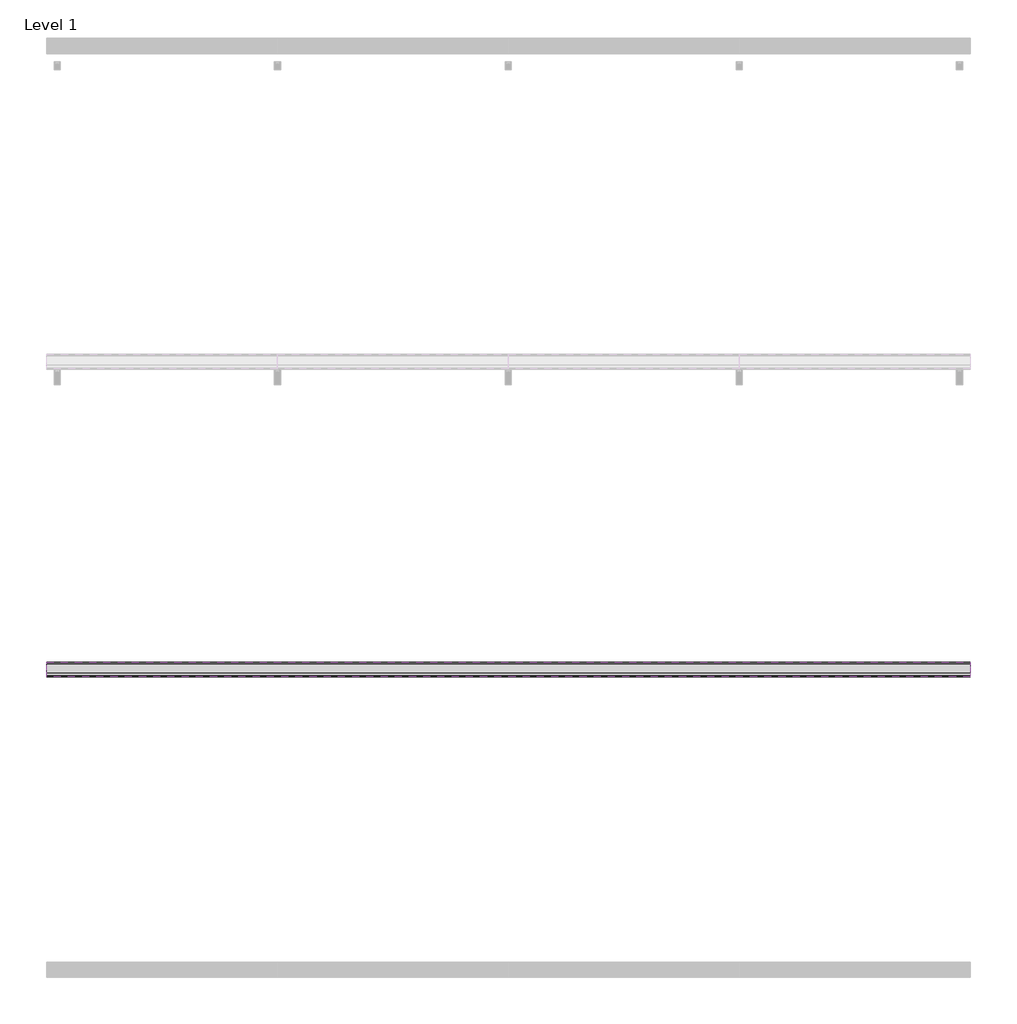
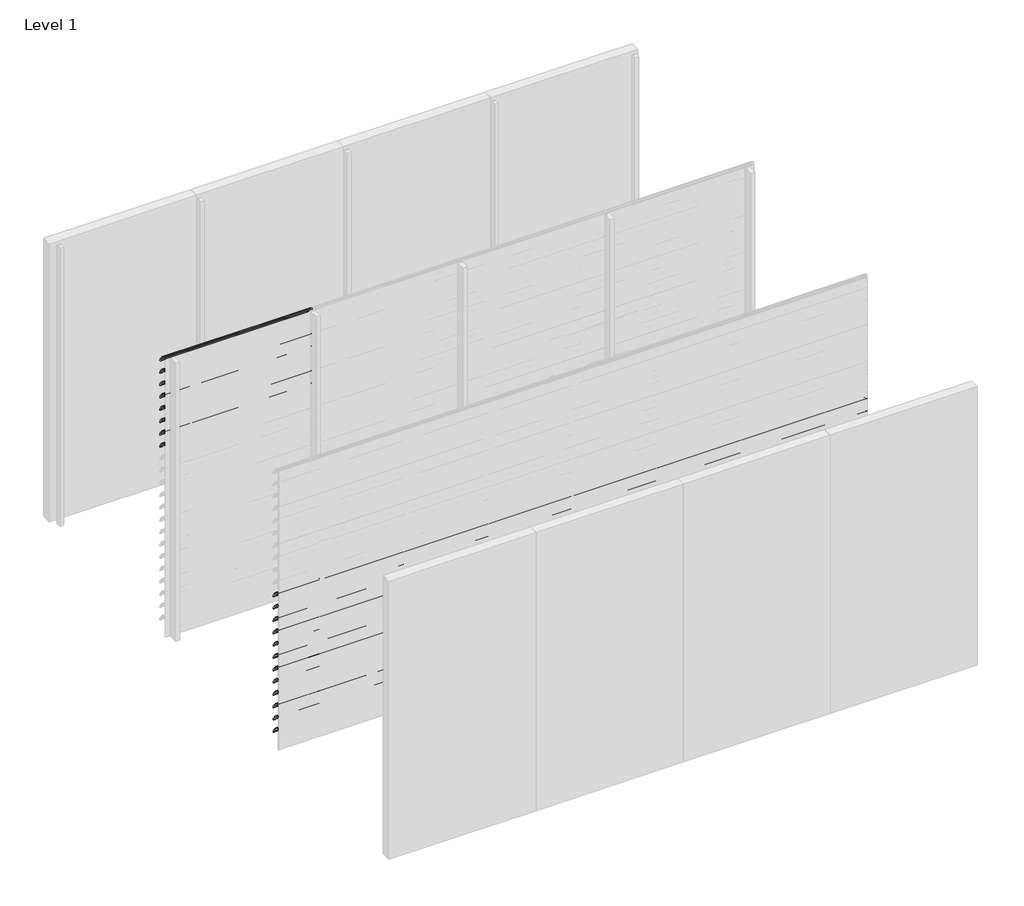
# One storey, part 20 of 57: 20 proxies.
"""IFC4 building model written with IfcOpenShell, lengths in millimetres."""

from ifc_helpers import new_model, si_unit, point, frame, frame_2d, origin, place, context, project, spatial, polyline, circle_curve, trimmed, segment, composite_curve, outline, extrude, element, save

model = new_model("IFC4")

# Units and contexts
model_context = context("Model", 3, world=origin())
ifc_project = project(units=[si_unit("LENGTHUNIT", "METRE", prefix="MILLI")], contexts=[model_context])

# Site, building, storey
site = spatial("IfcSite", under=ifc_project)
building = spatial("IfcBuilding", under=site)
storey = spatial("IfcBuildingStorey", under=building, Name="Level 1", Elevation=0.0)

# Proxies
placement = place(None, origin())
element("IfcBuildingElementProxy", 1, Name="Wall Sweeps", at=placement, inside=storey, context=model_context, shape_type="SweptSolid", body=[
    extrude(outline(composite_curve([segment(trimmed(circle_curve(frame_2d((-35993.7822526, 3016.4913792)), 4.2177474), [point((-35989.6985606, 3017.5462976))], [point((-35993.7822526, 3020.7091266))], False, "CARTESIAN"), True, "CONTINUOUS"), segment(trimmed(circle_curve(frame_2d((-36018.7150834, 2918.2536312)), 105.4456002), [point((-35993.7822526, 3020.7091266))], [point((-35971.7914298, 3012.6832099))], False, "CARTESIAN"), True, "CONTINUOUS"), segment(trimmed(circle_curve(frame_2d((-36061.7199745, 2864.0352476)), 173.7335887), [point((-35971.7914298, 3012.6832099))], [point((-35913.0720121, 2953.9637922))], False, "CARTESIAN"), True, "CONTINUOUS"), segment(trimmed(circle_curve(frame_2d((-36004.9297178, 2902.1860314)), 105.4456002), [point((-35913.0720121, 2953.9637922))], [point((-35903.6249616, 2931.4455765))], False, "CARTESIAN"), True, "CONTINUOUS"), segment(trimmed(circle_curve(frame_2d((-35907.809737, 2930.3307305)), 4.3307305), [point((-35903.6249616, 2931.4455765))], [point((-35909.0769196, 2926.189538))], False, "CARTESIAN"), True, "CONTINUOUS"), segment(polyline([(-35909.0769196, 2926.189538), (-35934.7401984, 2950.9722783)]), True, "CONTINUOUS"), segment(trimmed(circle_curve(frame_2d((-35931.3879574, 2953.2977626)), 4.079877), [point((-35934.7401984, 2950.9722783))], [point((-35930.7310597, 2957.3244091))], False, "CARTESIAN"), True, "CONTINUOUS"), segment(trimmed(circle_curve(frame_2d((-36014.6665585, 2935.2544323)), 86.7885467), [point((-35930.7310597, 2957.3244091))], [point((-35942.3028351, 2983.1683485))], True, "CARTESIAN"), True, "CONTINUOUS"), segment(polyline([(-35942.3028351, 2983.1683485), (-35940.7230099, 2985.9046861)]), True, "CONTINUOUS"), segment(trimmed(circle_curve(frame_2d((-36061.7199745, 2864.0352476)), 171.7335887), [point((-35940.7230099, 2985.9046861))], [point((-35972.7555872, 3010.9289618))], True, "CARTESIAN"), True, "CONTINUOUS"), segment(trimmed(circle_curve(frame_2d((-36018.7150834, 2918.2536312)), 103.4456002), [point((-35972.7555872, 3010.9289618))], [point((-35989.6985606, 3017.5462976))], True, "CARTESIAN"), True, "CONTINUOUS")], self_intersect=False)), frame((0.0, 0.0, 0.0), z_axis=(1.0, 0.0, 0.0), x_axis=(0.0, 1.0, 0.0)), (0.0, 0.0, 1.0), 1500.0),
])
element("IfcBuildingElementProxy", 2, Name="Wall Sweeps", at=placement, inside=storey, context=model_context, shape_type="SweptSolid", body=[
    extrude(outline(composite_curve([segment(trimmed(circle_curve(frame_2d((-35993.7822526, 2883.4913792)), 4.2177474), [point((-35989.6985606, 2884.5462976))], [point((-35993.7822526, 2887.7091266))], False, "CARTESIAN"), True, "CONTINUOUS"), segment(trimmed(circle_curve(frame_2d((-36018.7150834, 2785.2536312)), 105.4456002), [point((-35993.7822526, 2887.7091266))], [point((-35971.7914298, 2879.6832099))], False, "CARTESIAN"), True, "CONTINUOUS"), segment(trimmed(circle_curve(frame_2d((-36061.7199745, 2731.0352476)), 173.7335887), [point((-35971.7914298, 2879.6832099))], [point((-35913.0720121, 2820.9637922))], False, "CARTESIAN"), True, "CONTINUOUS"), segment(trimmed(circle_curve(frame_2d((-36004.9297178, 2769.1860314)), 105.4456002), [point((-35913.0720121, 2820.9637922))], [point((-35903.6249616, 2798.4455765))], False, "CARTESIAN"), True, "CONTINUOUS"), segment(trimmed(circle_curve(frame_2d((-35907.809737, 2797.3307305)), 4.3307305), [point((-35903.6249616, 2798.4455765))], [point((-35909.0769196, 2793.189538))], False, "CARTESIAN"), True, "CONTINUOUS"), segment(polyline([(-35909.0769196, 2793.189538), (-35934.7401984, 2817.9722783)]), True, "CONTINUOUS"), segment(trimmed(circle_curve(frame_2d((-35931.3879574, 2820.2977626)), 4.079877), [point((-35934.7401984, 2817.9722783))], [point((-35930.7310597, 2824.3244091))], False, "CARTESIAN"), True, "CONTINUOUS"), segment(trimmed(circle_curve(frame_2d((-36014.6665585, 2802.2544323)), 86.7885467), [point((-35930.7310597, 2824.3244091))], [point((-35942.3028351, 2850.1683485))], True, "CARTESIAN"), True, "CONTINUOUS"), segment(polyline([(-35942.3028351, 2850.1683485), (-35940.7230099, 2852.9046861)]), True, "CONTINUOUS"), segment(trimmed(circle_curve(frame_2d((-36061.7199745, 2731.0352476)), 171.7335887), [point((-35940.7230099, 2852.9046861))], [point((-35972.7555872, 2877.9289618))], True, "CARTESIAN"), True, "CONTINUOUS"), segment(trimmed(circle_curve(frame_2d((-36018.7150834, 2785.2536312)), 103.4456002), [point((-35972.7555872, 2877.9289618))], [point((-35989.6985606, 2884.5462976))], True, "CARTESIAN"), True, "CONTINUOUS")], self_intersect=False)), frame((0.0, 0.0, 0.0), z_axis=(1.0, 0.0, 0.0), x_axis=(0.0, 1.0, 0.0)), (0.0, 0.0, 1.0), 1500.0),
])
element("IfcBuildingElementProxy", 3, Name="Wall Sweeps", at=placement, inside=storey, context=model_context, shape_type="SweptSolid", body=[
    extrude(outline(composite_curve([segment(trimmed(circle_curve(frame_2d((-35993.7822526, 2750.4913792)), 4.2177474), [point((-35989.6985606, 2751.5462976))], [point((-35993.7822526, 2754.7091266))], False, "CARTESIAN"), True, "CONTINUOUS"), segment(trimmed(circle_curve(frame_2d((-36018.7150834, 2652.2536312)), 105.4456002), [point((-35993.7822526, 2754.7091266))], [point((-35971.7914298, 2746.6832099))], False, "CARTESIAN"), True, "CONTINUOUS"), segment(trimmed(circle_curve(frame_2d((-36061.7199745, 2598.0352476)), 173.7335887), [point((-35971.7914298, 2746.6832099))], [point((-35913.0720121, 2687.9637922))], False, "CARTESIAN"), True, "CONTINUOUS"), segment(trimmed(circle_curve(frame_2d((-36004.9297178, 2636.1860314)), 105.4456002), [point((-35913.0720121, 2687.9637922))], [point((-35903.6249616, 2665.4455765))], False, "CARTESIAN"), True, "CONTINUOUS"), segment(trimmed(circle_curve(frame_2d((-35907.809737, 2664.3307305)), 4.3307305), [point((-35903.6249616, 2665.4455765))], [point((-35909.0769196, 2660.189538))], False, "CARTESIAN"), True, "CONTINUOUS"), segment(polyline([(-35909.0769196, 2660.189538), (-35934.7401984, 2684.9722783)]), True, "CONTINUOUS"), segment(trimmed(circle_curve(frame_2d((-35931.3879574, 2687.2977626)), 4.079877), [point((-35934.7401984, 2684.9722783))], [point((-35930.7310597, 2691.3244091))], False, "CARTESIAN"), True, "CONTINUOUS"), segment(trimmed(circle_curve(frame_2d((-36014.6665585, 2669.2544323)), 86.7885467), [point((-35930.7310597, 2691.3244091))], [point((-35942.3028351, 2717.1683485))], True, "CARTESIAN"), True, "CONTINUOUS"), segment(polyline([(-35942.3028351, 2717.1683485), (-35940.7230099, 2719.9046861)]), True, "CONTINUOUS"), segment(trimmed(circle_curve(frame_2d((-36061.7199745, 2598.0352476)), 171.7335887), [point((-35940.7230099, 2719.9046861))], [point((-35972.7555872, 2744.9289618))], True, "CARTESIAN"), True, "CONTINUOUS"), segment(trimmed(circle_curve(frame_2d((-36018.7150834, 2652.2536312)), 103.4456002), [point((-35972.7555872, 2744.9289618))], [point((-35989.6985606, 2751.5462976))], True, "CARTESIAN"), True, "CONTINUOUS")], self_intersect=False)), frame((0.0, 0.0, 0.0), z_axis=(1.0, 0.0, 0.0), x_axis=(0.0, 1.0, 0.0)), (0.0, 0.0, 1.0), 1500.0),
])
element("IfcBuildingElementProxy", 4, Name="Wall Sweeps", at=placement, inside=storey, context=model_context, shape_type="SweptSolid", body=[
    extrude(outline(composite_curve([segment(trimmed(circle_curve(frame_2d((-35993.7822526, 2617.4913792)), 4.2177474), [point((-35989.6985606, 2618.5462976))], [point((-35993.7822526, 2621.7091266))], False, "CARTESIAN"), True, "CONTINUOUS"), segment(trimmed(circle_curve(frame_2d((-36018.7150834, 2519.2536312)), 105.4456002), [point((-35993.7822526, 2621.7091266))], [point((-35971.7914298, 2613.6832099))], False, "CARTESIAN"), True, "CONTINUOUS"), segment(trimmed(circle_curve(frame_2d((-36061.7199745, 2465.0352476)), 173.7335887), [point((-35971.7914298, 2613.6832099))], [point((-35913.0720121, 2554.9637922))], False, "CARTESIAN"), True, "CONTINUOUS"), segment(trimmed(circle_curve(frame_2d((-36004.9297178, 2503.1860314)), 105.4456002), [point((-35913.0720121, 2554.9637922))], [point((-35903.6249616, 2532.4455765))], False, "CARTESIAN"), True, "CONTINUOUS"), segment(trimmed(circle_curve(frame_2d((-35907.809737, 2531.3307305)), 4.3307305), [point((-35903.6249616, 2532.4455765))], [point((-35909.0769196, 2527.189538))], False, "CARTESIAN"), True, "CONTINUOUS"), segment(polyline([(-35909.0769196, 2527.189538), (-35934.7401984, 2551.9722783)]), True, "CONTINUOUS"), segment(trimmed(circle_curve(frame_2d((-35931.3879574, 2554.2977626)), 4.079877), [point((-35934.7401984, 2551.9722783))], [point((-35930.7310597, 2558.3244091))], False, "CARTESIAN"), True, "CONTINUOUS"), segment(trimmed(circle_curve(frame_2d((-36014.6665585, 2536.2544323)), 86.7885467), [point((-35930.7310597, 2558.3244091))], [point((-35942.3028351, 2584.1683485))], True, "CARTESIAN"), True, "CONTINUOUS"), segment(polyline([(-35942.3028351, 2584.1683485), (-35940.7230099, 2586.9046861)]), True, "CONTINUOUS"), segment(trimmed(circle_curve(frame_2d((-36061.7199745, 2465.0352476)), 171.7335887), [point((-35940.7230099, 2586.9046861))], [point((-35972.7555872, 2611.9289618))], True, "CARTESIAN"), True, "CONTINUOUS"), segment(trimmed(circle_curve(frame_2d((-36018.7150834, 2519.2536312)), 103.4456002), [point((-35972.7555872, 2611.9289618))], [point((-35989.6985606, 2618.5462976))], True, "CARTESIAN"), True, "CONTINUOUS")], self_intersect=False)), frame((0.0, 0.0, 0.0), z_axis=(1.0, 0.0, 0.0), x_axis=(0.0, 1.0, 0.0)), (0.0, 0.0, 1.0), 1500.0),
])
element("IfcBuildingElementProxy", 5, Name="Wall Sweeps", at=placement, inside=storey, context=model_context, shape_type="SweptSolid", body=[
    extrude(outline(composite_curve([segment(trimmed(circle_curve(frame_2d((-35993.7822526, 2484.4913792)), 4.2177474), [point((-35989.6985606, 2485.5462976))], [point((-35993.7822526, 2488.7091266))], False, "CARTESIAN"), True, "CONTINUOUS"), segment(trimmed(circle_curve(frame_2d((-36018.7150834, 2386.2536312)), 105.4456002), [point((-35993.7822526, 2488.7091266))], [point((-35971.7914298, 2480.6832099))], False, "CARTESIAN"), True, "CONTINUOUS"), segment(trimmed(circle_curve(frame_2d((-36061.7199745, 2332.0352476)), 173.7335887), [point((-35971.7914298, 2480.6832099))], [point((-35913.0720121, 2421.9637922))], False, "CARTESIAN"), True, "CONTINUOUS"), segment(trimmed(circle_curve(frame_2d((-36004.9297178, 2370.1860314)), 105.4456002), [point((-35913.0720121, 2421.9637922))], [point((-35903.6249616, 2399.4455765))], False, "CARTESIAN"), True, "CONTINUOUS"), segment(trimmed(circle_curve(frame_2d((-35907.809737, 2398.3307305)), 4.3307305), [point((-35903.6249616, 2399.4455765))], [point((-35909.0769196, 2394.189538))], False, "CARTESIAN"), True, "CONTINUOUS"), segment(polyline([(-35909.0769196, 2394.189538), (-35934.7401984, 2418.9722783)]), True, "CONTINUOUS"), segment(trimmed(circle_curve(frame_2d((-35931.3879574, 2421.2977626)), 4.079877), [point((-35934.7401984, 2418.9722783))], [point((-35930.7310597, 2425.3244091))], False, "CARTESIAN"), True, "CONTINUOUS"), segment(trimmed(circle_curve(frame_2d((-36014.6665585, 2403.2544323)), 86.7885467), [point((-35930.7310597, 2425.3244091))], [point((-35942.3028351, 2451.1683485))], True, "CARTESIAN"), True, "CONTINUOUS"), segment(polyline([(-35942.3028351, 2451.1683485), (-35940.7230099, 2453.9046861)]), True, "CONTINUOUS"), segment(trimmed(circle_curve(frame_2d((-36061.7199745, 2332.0352476)), 171.7335887), [point((-35940.7230099, 2453.9046861))], [point((-35972.7555872, 2478.9289618))], True, "CARTESIAN"), True, "CONTINUOUS"), segment(trimmed(circle_curve(frame_2d((-36018.7150834, 2386.2536312)), 103.4456002), [point((-35972.7555872, 2478.9289618))], [point((-35989.6985606, 2485.5462976))], True, "CARTESIAN"), True, "CONTINUOUS")], self_intersect=False)), frame((0.0, 0.0, 0.0), z_axis=(1.0, 0.0, 0.0), x_axis=(0.0, 1.0, 0.0)), (0.0, 0.0, 1.0), 1500.0),
])
element("IfcBuildingElementProxy", 6, Name="Wall Sweeps", at=placement, inside=storey, context=model_context, shape_type="SweptSolid", body=[
    extrude(outline(composite_curve([segment(trimmed(circle_curve(frame_2d((-35993.7822526, 2351.4913792)), 4.2177474), [point((-35989.6985606, 2352.5462976))], [point((-35993.7822526, 2355.7091266))], False, "CARTESIAN"), True, "CONTINUOUS"), segment(trimmed(circle_curve(frame_2d((-36018.7150834, 2253.2536312)), 105.4456002), [point((-35993.7822526, 2355.7091266))], [point((-35971.7914298, 2347.6832099))], False, "CARTESIAN"), True, "CONTINUOUS"), segment(trimmed(circle_curve(frame_2d((-36061.7199745, 2199.0352476)), 173.7335887), [point((-35971.7914298, 2347.6832099))], [point((-35913.0720121, 2288.9637922))], False, "CARTESIAN"), True, "CONTINUOUS"), segment(trimmed(circle_curve(frame_2d((-36004.9297178, 2237.1860314)), 105.4456002), [point((-35913.0720121, 2288.9637922))], [point((-35903.6249616, 2266.4455765))], False, "CARTESIAN"), True, "CONTINUOUS"), segment(trimmed(circle_curve(frame_2d((-35907.809737, 2265.3307305)), 4.3307305), [point((-35903.6249616, 2266.4455765))], [point((-35909.0769196, 2261.189538))], False, "CARTESIAN"), True, "CONTINUOUS"), segment(polyline([(-35909.0769196, 2261.189538), (-35934.7401984, 2285.9722783)]), True, "CONTINUOUS"), segment(trimmed(circle_curve(frame_2d((-35931.3879574, 2288.2977626)), 4.079877), [point((-35934.7401984, 2285.9722783))], [point((-35930.7310597, 2292.3244091))], False, "CARTESIAN"), True, "CONTINUOUS"), segment(trimmed(circle_curve(frame_2d((-36014.6665585, 2270.2544323)), 86.7885467), [point((-35930.7310597, 2292.3244091))], [point((-35942.3028351, 2318.1683485))], True, "CARTESIAN"), True, "CONTINUOUS"), segment(polyline([(-35942.3028351, 2318.1683485), (-35940.7230099, 2320.9046861)]), True, "CONTINUOUS"), segment(trimmed(circle_curve(frame_2d((-36061.7199745, 2199.0352476)), 171.7335887), [point((-35940.7230099, 2320.9046861))], [point((-35972.7555872, 2345.9289618))], True, "CARTESIAN"), True, "CONTINUOUS"), segment(trimmed(circle_curve(frame_2d((-36018.7150834, 2253.2536312)), 103.4456002), [point((-35972.7555872, 2345.9289618))], [point((-35989.6985606, 2352.5462976))], True, "CARTESIAN"), True, "CONTINUOUS")], self_intersect=False)), frame((0.0, 0.0, 0.0), z_axis=(1.0, 0.0, 0.0), x_axis=(0.0, 1.0, 0.0)), (0.0, 0.0, 1.0), 1500.0),
])
element("IfcBuildingElementProxy", 7, Name="Wall Sweeps", at=placement, inside=storey, context=model_context, shape_type="SweptSolid", body=[
    extrude(outline(composite_curve([segment(trimmed(circle_curve(frame_2d((-35993.7822526, 2218.4913792)), 4.2177474), [point((-35989.6985606, 2219.5462976))], [point((-35993.7822526, 2222.7091266))], False, "CARTESIAN"), True, "CONTINUOUS"), segment(trimmed(circle_curve(frame_2d((-36018.7150834, 2120.2536312)), 105.4456002), [point((-35993.7822526, 2222.7091266))], [point((-35971.7914298, 2214.6832099))], False, "CARTESIAN"), True, "CONTINUOUS"), segment(trimmed(circle_curve(frame_2d((-36061.7199745, 2066.0352476)), 173.7335887), [point((-35971.7914298, 2214.6832099))], [point((-35913.0720121, 2155.9637922))], False, "CARTESIAN"), True, "CONTINUOUS"), segment(trimmed(circle_curve(frame_2d((-36004.9297178, 2104.1860314)), 105.4456002), [point((-35913.0720121, 2155.9637922))], [point((-35903.6249616, 2133.4455765))], False, "CARTESIAN"), True, "CONTINUOUS"), segment(trimmed(circle_curve(frame_2d((-35907.809737, 2132.3307305)), 4.3307305), [point((-35903.6249616, 2133.4455765))], [point((-35909.0769196, 2128.189538))], False, "CARTESIAN"), True, "CONTINUOUS"), segment(polyline([(-35909.0769196, 2128.189538), (-35934.7401984, 2152.9722783)]), True, "CONTINUOUS"), segment(trimmed(circle_curve(frame_2d((-35931.3879574, 2155.2977626)), 4.079877), [point((-35934.7401984, 2152.9722783))], [point((-35930.7310597, 2159.3244091))], False, "CARTESIAN"), True, "CONTINUOUS"), segment(trimmed(circle_curve(frame_2d((-36014.6665585, 2137.2544323)), 86.7885467), [point((-35930.7310597, 2159.3244091))], [point((-35942.3028351, 2185.1683485))], True, "CARTESIAN"), True, "CONTINUOUS"), segment(polyline([(-35942.3028351, 2185.1683485), (-35940.7230099, 2187.9046861)]), True, "CONTINUOUS"), segment(trimmed(circle_curve(frame_2d((-36061.7199745, 2066.0352476)), 171.7335887), [point((-35940.7230099, 2187.9046861))], [point((-35972.7555872, 2212.9289618))], True, "CARTESIAN"), True, "CONTINUOUS"), segment(trimmed(circle_curve(frame_2d((-36018.7150834, 2120.2536312)), 103.4456002), [point((-35972.7555872, 2212.9289618))], [point((-35989.6985606, 2219.5462976))], True, "CARTESIAN"), True, "CONTINUOUS")], self_intersect=False)), frame((0.0, 0.0, 0.0), z_axis=(1.0, 0.0, 0.0), x_axis=(0.0, 1.0, 0.0)), (0.0, 0.0, 1.0), 1500.0),
])
element("IfcBuildingElementProxy", 8, Name="Wall Sweeps", at=placement, inside=storey, context=model_context, shape_type="SweptSolid", body=[
    extrude(outline(composite_curve([segment(trimmed(circle_curve(frame_2d((-35993.7822526, 2085.4913792)), 4.2177474), [point((-35989.6985606, 2086.5462976))], [point((-35993.7822526, 2089.7091266))], False, "CARTESIAN"), True, "CONTINUOUS"), segment(trimmed(circle_curve(frame_2d((-36018.7150834, 1987.2536312)), 105.4456002), [point((-35993.7822526, 2089.7091266))], [point((-35971.7914298, 2081.6832099))], False, "CARTESIAN"), True, "CONTINUOUS"), segment(trimmed(circle_curve(frame_2d((-36061.7199745, 1933.0352476)), 173.7335887), [point((-35971.7914298, 2081.6832099))], [point((-35913.0720121, 2022.9637922))], False, "CARTESIAN"), True, "CONTINUOUS"), segment(trimmed(circle_curve(frame_2d((-36004.9297178, 1971.1860314)), 105.4456002), [point((-35913.0720121, 2022.9637922))], [point((-35903.6249616, 2000.4455765))], False, "CARTESIAN"), True, "CONTINUOUS"), segment(trimmed(circle_curve(frame_2d((-35907.809737, 1999.3307305)), 4.3307305), [point((-35903.6249616, 2000.4455765))], [point((-35909.0769196, 1995.189538))], False, "CARTESIAN"), True, "CONTINUOUS"), segment(polyline([(-35909.0769196, 1995.189538), (-35934.7401984, 2019.9722783)]), True, "CONTINUOUS"), segment(trimmed(circle_curve(frame_2d((-35931.3879574, 2022.2977626)), 4.079877), [point((-35934.7401984, 2019.9722783))], [point((-35930.7310597, 2026.3244091))], False, "CARTESIAN"), True, "CONTINUOUS"), segment(trimmed(circle_curve(frame_2d((-36014.6665585, 2004.2544323)), 86.7885467), [point((-35930.7310597, 2026.3244091))], [point((-35942.3028351, 2052.1683485))], True, "CARTESIAN"), True, "CONTINUOUS"), segment(polyline([(-35942.3028351, 2052.1683485), (-35940.7230099, 2054.9046861)]), True, "CONTINUOUS"), segment(trimmed(circle_curve(frame_2d((-36061.7199745, 1933.0352476)), 171.7335887), [point((-35940.7230099, 2054.9046861))], [point((-35972.7555872, 2079.9289618))], True, "CARTESIAN"), True, "CONTINUOUS"), segment(trimmed(circle_curve(frame_2d((-36018.7150834, 1987.2536312)), 103.4456002), [point((-35972.7555872, 2079.9289618))], [point((-35989.6985606, 2086.5462976))], True, "CARTESIAN"), True, "CONTINUOUS")], self_intersect=False)), frame((0.0, 0.0, 0.0), z_axis=(1.0, 0.0, 0.0), x_axis=(0.0, 1.0, 0.0)), (0.0, 0.0, 1.0), 1500.0),
])
element("IfcBuildingElementProxy", 9, Name="Wall Sweeps", at=placement, inside=storey, context=model_context, shape_type="SweptSolid", body=[
    extrude(outline(composite_curve([segment(trimmed(circle_curve(frame_2d((-37993.7822526, 1686.4913792)), 4.2177474), [point((-37989.6985606, 1687.5462976))], [point((-37993.7822526, 1690.7091266))], False, "CARTESIAN"), True, "CONTINUOUS"), segment(trimmed(circle_curve(frame_2d((-38018.7150834, 1588.2536312)), 105.4456002), [point((-37993.7822526, 1690.7091266))], [point((-37971.7914298, 1682.6832099))], False, "CARTESIAN"), True, "CONTINUOUS"), segment(trimmed(circle_curve(frame_2d((-38061.7199745, 1534.0352476)), 173.7335887), [point((-37971.7914298, 1682.6832099))], [point((-37913.0720121, 1623.9637922))], False, "CARTESIAN"), True, "CONTINUOUS"), segment(trimmed(circle_curve(frame_2d((-38004.9297178, 1572.1860314)), 105.4456002), [point((-37913.0720121, 1623.9637922))], [point((-37903.6249616, 1601.4455765))], False, "CARTESIAN"), True, "CONTINUOUS"), segment(trimmed(circle_curve(frame_2d((-37907.809737, 1600.3307305)), 4.3307305), [point((-37903.6249616, 1601.4455765))], [point((-37909.0769196, 1596.189538))], False, "CARTESIAN"), True, "CONTINUOUS"), segment(polyline([(-37909.0769196, 1596.189538), (-37934.7401984, 1620.9722783)]), True, "CONTINUOUS"), segment(trimmed(circle_curve(frame_2d((-37931.3879574, 1623.2977626)), 4.079877), [point((-37934.7401984, 1620.9722783))], [point((-37930.7310597, 1627.3244091))], False, "CARTESIAN"), True, "CONTINUOUS"), segment(trimmed(circle_curve(frame_2d((-38014.6665585, 1605.2544323)), 86.7885467), [point((-37930.7310597, 1627.3244091))], [point((-37942.3028351, 1653.1683485))], True, "CARTESIAN"), True, "CONTINUOUS"), segment(polyline([(-37942.3028351, 1653.1683485), (-37940.7230099, 1655.9046861)]), True, "CONTINUOUS"), segment(trimmed(circle_curve(frame_2d((-38061.7199745, 1534.0352476)), 171.7335887), [point((-37940.7230099, 1655.9046861))], [point((-37972.7555872, 1680.9289618))], True, "CARTESIAN"), True, "CONTINUOUS"), segment(trimmed(circle_curve(frame_2d((-38018.7150834, 1588.2536312)), 103.4456002), [point((-37972.7555872, 1680.9289618))], [point((-37989.6985606, 1687.5462976))], True, "CARTESIAN"), True, "CONTINUOUS")], self_intersect=False)), frame((0.0, 0.0, 0.0), z_axis=(1.0, 0.0, 0.0), x_axis=(0.0, 1.0, 0.0)), (0.0, 0.0, 1.0), 6000.0),
])
element("IfcBuildingElementProxy", 10, Name="Wall Sweeps", at=placement, inside=storey, context=model_context, shape_type="SweptSolid", body=[
    extrude(outline(composite_curve([segment(trimmed(circle_curve(frame_2d((-37993.7822526, 1553.4913792)), 4.2177474), [point((-37989.6985606, 1554.5462976))], [point((-37993.7822526, 1557.7091266))], False, "CARTESIAN"), True, "CONTINUOUS"), segment(trimmed(circle_curve(frame_2d((-38018.7150834, 1455.2536312)), 105.4456002), [point((-37993.7822526, 1557.7091266))], [point((-37971.7914298, 1549.6832099))], False, "CARTESIAN"), True, "CONTINUOUS"), segment(trimmed(circle_curve(frame_2d((-38061.7199745, 1401.0352476)), 173.7335887), [point((-37971.7914298, 1549.6832099))], [point((-37913.0720121, 1490.9637922))], False, "CARTESIAN"), True, "CONTINUOUS"), segment(trimmed(circle_curve(frame_2d((-38004.9297178, 1439.1860314)), 105.4456002), [point((-37913.0720121, 1490.9637922))], [point((-37903.6249616, 1468.4455765))], False, "CARTESIAN"), True, "CONTINUOUS"), segment(trimmed(circle_curve(frame_2d((-37907.809737, 1467.3307305)), 4.3307305), [point((-37903.6249616, 1468.4455765))], [point((-37909.0769196, 1463.189538))], False, "CARTESIAN"), True, "CONTINUOUS"), segment(polyline([(-37909.0769196, 1463.189538), (-37934.7401984, 1487.9722783)]), True, "CONTINUOUS"), segment(trimmed(circle_curve(frame_2d((-37931.3879574, 1490.2977626)), 4.079877), [point((-37934.7401984, 1487.9722783))], [point((-37930.7310597, 1494.3244091))], False, "CARTESIAN"), True, "CONTINUOUS"), segment(trimmed(circle_curve(frame_2d((-38014.6665585, 1472.2544323)), 86.7885467), [point((-37930.7310597, 1494.3244091))], [point((-37942.3028351, 1520.1683485))], True, "CARTESIAN"), True, "CONTINUOUS"), segment(polyline([(-37942.3028351, 1520.1683485), (-37940.7230099, 1522.9046861)]), True, "CONTINUOUS"), segment(trimmed(circle_curve(frame_2d((-38061.7199745, 1401.0352476)), 171.7335887), [point((-37940.7230099, 1522.9046861))], [point((-37972.7555872, 1547.9289618))], True, "CARTESIAN"), True, "CONTINUOUS"), segment(trimmed(circle_curve(frame_2d((-38018.7150834, 1455.2536312)), 103.4456002), [point((-37972.7555872, 1547.9289618))], [point((-37989.6985606, 1554.5462976))], True, "CARTESIAN"), True, "CONTINUOUS")], self_intersect=False)), frame((0.0, 0.0, 0.0), z_axis=(1.0, 0.0, 0.0), x_axis=(0.0, 1.0, 0.0)), (0.0, 0.0, 1.0), 6000.0),
])
element("IfcBuildingElementProxy", 11, Name="Wall Sweeps", at=placement, inside=storey, context=model_context, shape_type="SweptSolid", body=[
    extrude(outline(composite_curve([segment(trimmed(circle_curve(frame_2d((-37993.7822526, 1420.4913792)), 4.2177474), [point((-37989.6985606, 1421.5462976))], [point((-37993.7822526, 1424.7091266))], False, "CARTESIAN"), True, "CONTINUOUS"), segment(trimmed(circle_curve(frame_2d((-38018.7150834, 1322.2536312)), 105.4456002), [point((-37993.7822526, 1424.7091266))], [point((-37971.7914298, 1416.6832099))], False, "CARTESIAN"), True, "CONTINUOUS"), segment(trimmed(circle_curve(frame_2d((-38061.7199745, 1268.0352476)), 173.7335887), [point((-37971.7914298, 1416.6832099))], [point((-37913.0720121, 1357.9637922))], False, "CARTESIAN"), True, "CONTINUOUS"), segment(trimmed(circle_curve(frame_2d((-38004.9297178, 1306.1860314)), 105.4456002), [point((-37913.0720121, 1357.9637922))], [point((-37903.6249616, 1335.4455765))], False, "CARTESIAN"), True, "CONTINUOUS"), segment(trimmed(circle_curve(frame_2d((-37907.809737, 1334.3307305)), 4.3307305), [point((-37903.6249616, 1335.4455765))], [point((-37909.0769196, 1330.189538))], False, "CARTESIAN"), True, "CONTINUOUS"), segment(polyline([(-37909.0769196, 1330.189538), (-37934.7401984, 1354.9722783)]), True, "CONTINUOUS"), segment(trimmed(circle_curve(frame_2d((-37931.3879574, 1357.2977626)), 4.079877), [point((-37934.7401984, 1354.9722783))], [point((-37930.7310597, 1361.3244091))], False, "CARTESIAN"), True, "CONTINUOUS"), segment(trimmed(circle_curve(frame_2d((-38014.6665585, 1339.2544323)), 86.7885467), [point((-37930.7310597, 1361.3244091))], [point((-37942.3028351, 1387.1683485))], True, "CARTESIAN"), True, "CONTINUOUS"), segment(polyline([(-37942.3028351, 1387.1683485), (-37940.7230099, 1389.9046861)]), True, "CONTINUOUS"), segment(trimmed(circle_curve(frame_2d((-38061.7199745, 1268.0352476)), 171.7335887), [point((-37940.7230099, 1389.9046861))], [point((-37972.7555872, 1414.9289618))], True, "CARTESIAN"), True, "CONTINUOUS"), segment(trimmed(circle_curve(frame_2d((-38018.7150834, 1322.2536312)), 103.4456002), [point((-37972.7555872, 1414.9289618))], [point((-37989.6985606, 1421.5462976))], True, "CARTESIAN"), True, "CONTINUOUS")], self_intersect=False)), frame((0.0, 0.0, 0.0), z_axis=(1.0, 0.0, 0.0), x_axis=(0.0, 1.0, 0.0)), (0.0, 0.0, 1.0), 6000.0),
])
element("IfcBuildingElementProxy", 12, Name="Wall Sweeps", at=placement, inside=storey, context=model_context, shape_type="SweptSolid", body=[
    extrude(outline(composite_curve([segment(trimmed(circle_curve(frame_2d((-37993.7822526, 1287.4913792)), 4.2177474), [point((-37989.6985606, 1288.5462976))], [point((-37993.7822526, 1291.7091266))], False, "CARTESIAN"), True, "CONTINUOUS"), segment(trimmed(circle_curve(frame_2d((-38018.7150834, 1189.2536312)), 105.4456002), [point((-37993.7822526, 1291.7091266))], [point((-37971.7914298, 1283.6832099))], False, "CARTESIAN"), True, "CONTINUOUS"), segment(trimmed(circle_curve(frame_2d((-38061.7199745, 1135.0352476)), 173.7335887), [point((-37971.7914298, 1283.6832099))], [point((-37913.0720121, 1224.9637922))], False, "CARTESIAN"), True, "CONTINUOUS"), segment(trimmed(circle_curve(frame_2d((-38004.9297178, 1173.1860314)), 105.4456002), [point((-37913.0720121, 1224.9637922))], [point((-37903.6249616, 1202.4455765))], False, "CARTESIAN"), True, "CONTINUOUS"), segment(trimmed(circle_curve(frame_2d((-37907.809737, 1201.3307305)), 4.3307305), [point((-37903.6249616, 1202.4455765))], [point((-37909.0769196, 1197.189538))], False, "CARTESIAN"), True, "CONTINUOUS"), segment(polyline([(-37909.0769196, 1197.189538), (-37934.7401984, 1221.9722783)]), True, "CONTINUOUS"), segment(trimmed(circle_curve(frame_2d((-37931.3879574, 1224.2977626)), 4.079877), [point((-37934.7401984, 1221.9722783))], [point((-37930.7310597, 1228.3244091))], False, "CARTESIAN"), True, "CONTINUOUS"), segment(trimmed(circle_curve(frame_2d((-38014.6665585, 1206.2544323)), 86.7885467), [point((-37930.7310597, 1228.3244091))], [point((-37942.3028351, 1254.1683485))], True, "CARTESIAN"), True, "CONTINUOUS"), segment(polyline([(-37942.3028351, 1254.1683485), (-37940.7230099, 1256.9046861)]), True, "CONTINUOUS"), segment(trimmed(circle_curve(frame_2d((-38061.7199745, 1135.0352476)), 171.7335887), [point((-37940.7230099, 1256.9046861))], [point((-37972.7555872, 1281.9289618))], True, "CARTESIAN"), True, "CONTINUOUS"), segment(trimmed(circle_curve(frame_2d((-38018.7150834, 1189.2536312)), 103.4456002), [point((-37972.7555872, 1281.9289618))], [point((-37989.6985606, 1288.5462976))], True, "CARTESIAN"), True, "CONTINUOUS")], self_intersect=False)), frame((0.0, 0.0, 0.0), z_axis=(1.0, 0.0, 0.0), x_axis=(0.0, 1.0, 0.0)), (0.0, 0.0, 1.0), 6000.0),
])
element("IfcBuildingElementProxy", 13, Name="Wall Sweeps", at=placement, inside=storey, context=model_context, shape_type="SweptSolid", body=[
    extrude(outline(composite_curve([segment(trimmed(circle_curve(frame_2d((-37993.7822526, 1154.4913792)), 4.2177474), [point((-37989.6985606, 1155.5462976))], [point((-37993.7822526, 1158.7091266))], False, "CARTESIAN"), True, "CONTINUOUS"), segment(trimmed(circle_curve(frame_2d((-38018.7150834, 1056.2536312)), 105.4456002), [point((-37993.7822526, 1158.7091266))], [point((-37971.7914298, 1150.6832099))], False, "CARTESIAN"), True, "CONTINUOUS"), segment(trimmed(circle_curve(frame_2d((-38061.7199745, 1002.0352476)), 173.7335887), [point((-37971.7914298, 1150.6832099))], [point((-37913.0720121, 1091.9637922))], False, "CARTESIAN"), True, "CONTINUOUS"), segment(trimmed(circle_curve(frame_2d((-38004.9297178, 1040.1860314)), 105.4456002), [point((-37913.0720121, 1091.9637922))], [point((-37903.6249616, 1069.4455765))], False, "CARTESIAN"), True, "CONTINUOUS"), segment(trimmed(circle_curve(frame_2d((-37907.809737, 1068.3307305)), 4.3307305), [point((-37903.6249616, 1069.4455765))], [point((-37909.0769196, 1064.189538))], False, "CARTESIAN"), True, "CONTINUOUS"), segment(polyline([(-37909.0769196, 1064.189538), (-37934.7401984, 1088.9722783)]), True, "CONTINUOUS"), segment(trimmed(circle_curve(frame_2d((-37931.3879574, 1091.2977626)), 4.079877), [point((-37934.7401984, 1088.9722783))], [point((-37930.7310597, 1095.3244091))], False, "CARTESIAN"), True, "CONTINUOUS"), segment(trimmed(circle_curve(frame_2d((-38014.6665585, 1073.2544323)), 86.7885467), [point((-37930.7310597, 1095.3244091))], [point((-37942.3028351, 1121.1683485))], True, "CARTESIAN"), True, "CONTINUOUS"), segment(polyline([(-37942.3028351, 1121.1683485), (-37940.7230099, 1123.9046861)]), True, "CONTINUOUS"), segment(trimmed(circle_curve(frame_2d((-38061.7199745, 1002.0352476)), 171.7335887), [point((-37940.7230099, 1123.9046861))], [point((-37972.7555872, 1148.9289618))], True, "CARTESIAN"), True, "CONTINUOUS"), segment(trimmed(circle_curve(frame_2d((-38018.7150834, 1056.2536312)), 103.4456002), [point((-37972.7555872, 1148.9289618))], [point((-37989.6985606, 1155.5462976))], True, "CARTESIAN"), True, "CONTINUOUS")], self_intersect=False)), frame((0.0, 0.0, 0.0), z_axis=(1.0, 0.0, 0.0), x_axis=(0.0, 1.0, 0.0)), (0.0, 0.0, 1.0), 6000.0),
])
element("IfcBuildingElementProxy", 14, Name="Wall Sweeps", at=placement, inside=storey, context=model_context, shape_type="SweptSolid", body=[
    extrude(outline(composite_curve([segment(trimmed(circle_curve(frame_2d((-37993.7822526, 1021.4913792)), 4.2177474), [point((-37989.6985606, 1022.5462976))], [point((-37993.7822526, 1025.7091266))], False, "CARTESIAN"), True, "CONTINUOUS"), segment(trimmed(circle_curve(frame_2d((-38018.7150834, 923.2536312)), 105.4456002), [point((-37993.7822526, 1025.7091266))], [point((-37971.7914298, 1017.6832099))], False, "CARTESIAN"), True, "CONTINUOUS"), segment(trimmed(circle_curve(frame_2d((-38061.7199745, 869.0352476)), 173.7335887), [point((-37971.7914298, 1017.6832099))], [point((-37913.0720121, 958.9637922))], False, "CARTESIAN"), True, "CONTINUOUS"), segment(trimmed(circle_curve(frame_2d((-38004.9297178, 907.1860314)), 105.4456002), [point((-37913.0720121, 958.9637922))], [point((-37903.6249616, 936.4455765))], False, "CARTESIAN"), True, "CONTINUOUS"), segment(trimmed(circle_curve(frame_2d((-37907.809737, 935.3307305)), 4.3307305), [point((-37903.6249616, 936.4455765))], [point((-37909.0769196, 931.189538))], False, "CARTESIAN"), True, "CONTINUOUS"), segment(polyline([(-37909.0769196, 931.189538), (-37934.7401984, 955.9722783)]), True, "CONTINUOUS"), segment(trimmed(circle_curve(frame_2d((-37931.3879574, 958.2977626)), 4.079877), [point((-37934.7401984, 955.9722783))], [point((-37930.7310597, 962.3244091))], False, "CARTESIAN"), True, "CONTINUOUS"), segment(trimmed(circle_curve(frame_2d((-38014.6665585, 940.2544323)), 86.7885467), [point((-37930.7310597, 962.3244091))], [point((-37942.3028351, 988.1683485))], True, "CARTESIAN"), True, "CONTINUOUS"), segment(polyline([(-37942.3028351, 988.1683485), (-37940.7230099, 990.9046861)]), True, "CONTINUOUS"), segment(trimmed(circle_curve(frame_2d((-38061.7199745, 869.0352476)), 171.7335887), [point((-37940.7230099, 990.9046861))], [point((-37972.7555872, 1015.9289618))], True, "CARTESIAN"), True, "CONTINUOUS"), segment(trimmed(circle_curve(frame_2d((-38018.7150834, 923.2536312)), 103.4456002), [point((-37972.7555872, 1015.9289618))], [point((-37989.6985606, 1022.5462976))], True, "CARTESIAN"), True, "CONTINUOUS")], self_intersect=False)), frame((0.0, 0.0, 0.0), z_axis=(1.0, 0.0, 0.0), x_axis=(0.0, 1.0, 0.0)), (0.0, 0.0, 1.0), 6000.0),
])
element("IfcBuildingElementProxy", 15, Name="Wall Sweeps", at=placement, inside=storey, context=model_context, shape_type="SweptSolid", body=[
    extrude(outline(composite_curve([segment(trimmed(circle_curve(frame_2d((-37993.7822526, 888.4913792)), 4.2177474), [point((-37989.6985606, 889.5462976))], [point((-37993.7822526, 892.7091266))], False, "CARTESIAN"), True, "CONTINUOUS"), segment(trimmed(circle_curve(frame_2d((-38018.7150834, 790.2536312)), 105.4456002), [point((-37993.7822526, 892.7091266))], [point((-37971.7914298, 884.6832099))], False, "CARTESIAN"), True, "CONTINUOUS"), segment(trimmed(circle_curve(frame_2d((-38061.7199745, 736.0352476)), 173.7335887), [point((-37971.7914298, 884.6832099))], [point((-37913.0720121, 825.9637922))], False, "CARTESIAN"), True, "CONTINUOUS"), segment(trimmed(circle_curve(frame_2d((-38004.9297178, 774.1860314)), 105.4456002), [point((-37913.0720121, 825.9637922))], [point((-37903.6249616, 803.4455765))], False, "CARTESIAN"), True, "CONTINUOUS"), segment(trimmed(circle_curve(frame_2d((-37907.809737, 802.3307305)), 4.3307305), [point((-37903.6249616, 803.4455765))], [point((-37909.0769196, 798.189538))], False, "CARTESIAN"), True, "CONTINUOUS"), segment(polyline([(-37909.0769196, 798.189538), (-37934.7401984, 822.9722783)]), True, "CONTINUOUS"), segment(trimmed(circle_curve(frame_2d((-37931.3879574, 825.2977626)), 4.079877), [point((-37934.7401984, 822.9722783))], [point((-37930.7310597, 829.3244091))], False, "CARTESIAN"), True, "CONTINUOUS"), segment(trimmed(circle_curve(frame_2d((-38014.6665585, 807.2544323)), 86.7885467), [point((-37930.7310597, 829.3244091))], [point((-37942.3028351, 855.1683485))], True, "CARTESIAN"), True, "CONTINUOUS"), segment(polyline([(-37942.3028351, 855.1683485), (-37940.7230099, 857.9046861)]), True, "CONTINUOUS"), segment(trimmed(circle_curve(frame_2d((-38061.7199745, 736.0352476)), 171.7335887), [point((-37940.7230099, 857.9046861))], [point((-37972.7555872, 882.9289618))], True, "CARTESIAN"), True, "CONTINUOUS"), segment(trimmed(circle_curve(frame_2d((-38018.7150834, 790.2536312)), 103.4456002), [point((-37972.7555872, 882.9289618))], [point((-37989.6985606, 889.5462976))], True, "CARTESIAN"), True, "CONTINUOUS")], self_intersect=False)), frame((0.0, 0.0, 0.0), z_axis=(1.0, 0.0, 0.0), x_axis=(0.0, 1.0, 0.0)), (0.0, 0.0, 1.0), 6000.0),
])
element("IfcBuildingElementProxy", 16, Name="Wall Sweeps", at=placement, inside=storey, context=model_context, shape_type="SweptSolid", body=[
    extrude(outline(composite_curve([segment(trimmed(circle_curve(frame_2d((-37993.7822526, 755.4913792)), 4.2177474), [point((-37989.6985606, 756.5462976))], [point((-37993.7822526, 759.7091266))], False, "CARTESIAN"), True, "CONTINUOUS"), segment(trimmed(circle_curve(frame_2d((-38018.7150834, 657.2536312)), 105.4456002), [point((-37993.7822526, 759.7091266))], [point((-37971.7914298, 751.6832099))], False, "CARTESIAN"), True, "CONTINUOUS"), segment(trimmed(circle_curve(frame_2d((-38061.7199745, 603.0352476)), 173.7335887), [point((-37971.7914298, 751.6832099))], [point((-37913.0720121, 692.9637922))], False, "CARTESIAN"), True, "CONTINUOUS"), segment(trimmed(circle_curve(frame_2d((-38004.9297178, 641.1860314)), 105.4456002), [point((-37913.0720121, 692.9637922))], [point((-37903.6249616, 670.4455765))], False, "CARTESIAN"), True, "CONTINUOUS"), segment(trimmed(circle_curve(frame_2d((-37907.809737, 669.3307305)), 4.3307305), [point((-37903.6249616, 670.4455765))], [point((-37909.0769196, 665.189538))], False, "CARTESIAN"), True, "CONTINUOUS"), segment(polyline([(-37909.0769196, 665.189538), (-37934.7401984, 689.9722783)]), True, "CONTINUOUS"), segment(trimmed(circle_curve(frame_2d((-37931.3879574, 692.2977626)), 4.079877), [point((-37934.7401984, 689.9722783))], [point((-37930.7310597, 696.3244091))], False, "CARTESIAN"), True, "CONTINUOUS"), segment(trimmed(circle_curve(frame_2d((-38014.6665585, 674.2544323)), 86.7885467), [point((-37930.7310597, 696.3244091))], [point((-37942.3028351, 722.1683485))], True, "CARTESIAN"), True, "CONTINUOUS"), segment(polyline([(-37942.3028351, 722.1683485), (-37940.7230099, 724.9046861)]), True, "CONTINUOUS"), segment(trimmed(circle_curve(frame_2d((-38061.7199745, 603.0352476)), 171.7335887), [point((-37940.7230099, 724.9046861))], [point((-37972.7555872, 749.9289618))], True, "CARTESIAN"), True, "CONTINUOUS"), segment(trimmed(circle_curve(frame_2d((-38018.7150834, 657.2536312)), 103.4456002), [point((-37972.7555872, 749.9289618))], [point((-37989.6985606, 756.5462976))], True, "CARTESIAN"), True, "CONTINUOUS")], self_intersect=False)), frame((0.0, 0.0, 0.0), z_axis=(1.0, 0.0, 0.0), x_axis=(0.0, 1.0, 0.0)), (0.0, 0.0, 1.0), 6000.0),
])
element("IfcBuildingElementProxy", 17, Name="Wall Sweeps", at=placement, inside=storey, context=model_context, shape_type="SweptSolid", body=[
    extrude(outline(composite_curve([segment(trimmed(circle_curve(frame_2d((-37993.7822526, 622.4913792)), 4.2177474), [point((-37989.6985606, 623.5462976))], [point((-37993.7822526, 626.7091266))], False, "CARTESIAN"), True, "CONTINUOUS"), segment(trimmed(circle_curve(frame_2d((-38018.7150834, 524.2536312)), 105.4456002), [point((-37993.7822526, 626.7091266))], [point((-37971.7914298, 618.6832099))], False, "CARTESIAN"), True, "CONTINUOUS"), segment(trimmed(circle_curve(frame_2d((-38061.7199745, 470.0352476)), 173.7335887), [point((-37971.7914298, 618.6832099))], [point((-37913.0720121, 559.9637922))], False, "CARTESIAN"), True, "CONTINUOUS"), segment(trimmed(circle_curve(frame_2d((-38004.9297178, 508.1860314)), 105.4456002), [point((-37913.0720121, 559.9637922))], [point((-37903.6249616, 537.4455765))], False, "CARTESIAN"), True, "CONTINUOUS"), segment(trimmed(circle_curve(frame_2d((-37907.809737, 536.3307305)), 4.3307305), [point((-37903.6249616, 537.4455765))], [point((-37909.0769196, 532.189538))], False, "CARTESIAN"), True, "CONTINUOUS"), segment(polyline([(-37909.0769196, 532.189538), (-37934.7401984, 556.9722783)]), True, "CONTINUOUS"), segment(trimmed(circle_curve(frame_2d((-37931.3879574, 559.2977626)), 4.079877), [point((-37934.7401984, 556.9722783))], [point((-37930.7310597, 563.3244091))], False, "CARTESIAN"), True, "CONTINUOUS"), segment(trimmed(circle_curve(frame_2d((-38014.6665585, 541.2544323)), 86.7885467), [point((-37930.7310597, 563.3244091))], [point((-37942.3028351, 589.1683485))], True, "CARTESIAN"), True, "CONTINUOUS"), segment(polyline([(-37942.3028351, 589.1683485), (-37940.7230099, 591.9046861)]), True, "CONTINUOUS"), segment(trimmed(circle_curve(frame_2d((-38061.7199745, 470.0352476)), 171.7335887), [point((-37940.7230099, 591.9046861))], [point((-37972.7555872, 616.9289618))], True, "CARTESIAN"), True, "CONTINUOUS"), segment(trimmed(circle_curve(frame_2d((-38018.7150834, 524.2536312)), 103.4456002), [point((-37972.7555872, 616.9289618))], [point((-37989.6985606, 623.5462976))], True, "CARTESIAN"), True, "CONTINUOUS")], self_intersect=False)), frame((0.0, 0.0, 0.0), z_axis=(1.0, 0.0, 0.0), x_axis=(0.0, 1.0, 0.0)), (0.0, 0.0, 1.0), 6000.0),
])
element("IfcBuildingElementProxy", 18, Name="Wall Sweeps", at=placement, inside=storey, context=model_context, shape_type="SweptSolid", body=[
    extrude(outline(composite_curve([segment(trimmed(circle_curve(frame_2d((-37993.7822526, 489.4913792)), 4.2177474), [point((-37989.6985606, 490.5462976))], [point((-37993.7822526, 493.7091266))], False, "CARTESIAN"), True, "CONTINUOUS"), segment(trimmed(circle_curve(frame_2d((-38018.7150834, 391.2536312)), 105.4456002), [point((-37993.7822526, 493.7091266))], [point((-37971.7914298, 485.6832099))], False, "CARTESIAN"), True, "CONTINUOUS"), segment(trimmed(circle_curve(frame_2d((-38061.7199745, 337.0352476)), 173.7335887), [point((-37971.7914298, 485.6832099))], [point((-37913.0720121, 426.9637922))], False, "CARTESIAN"), True, "CONTINUOUS"), segment(trimmed(circle_curve(frame_2d((-38004.9297178, 375.1860314)), 105.4456002), [point((-37913.0720121, 426.9637922))], [point((-37903.6249616, 404.4455765))], False, "CARTESIAN"), True, "CONTINUOUS"), segment(trimmed(circle_curve(frame_2d((-37907.809737, 403.3307305)), 4.3307305), [point((-37903.6249616, 404.4455765))], [point((-37909.0769196, 399.189538))], False, "CARTESIAN"), True, "CONTINUOUS"), segment(polyline([(-37909.0769196, 399.189538), (-37934.7401984, 423.9722783)]), True, "CONTINUOUS"), segment(trimmed(circle_curve(frame_2d((-37931.3879574, 426.2977626)), 4.079877), [point((-37934.7401984, 423.9722783))], [point((-37930.7310597, 430.3244091))], False, "CARTESIAN"), True, "CONTINUOUS"), segment(trimmed(circle_curve(frame_2d((-38014.6665585, 408.2544323)), 86.7885467), [point((-37930.7310597, 430.3244091))], [point((-37942.3028351, 456.1683485))], True, "CARTESIAN"), True, "CONTINUOUS"), segment(polyline([(-37942.3028351, 456.1683485), (-37940.7230099, 458.9046861)]), True, "CONTINUOUS"), segment(trimmed(circle_curve(frame_2d((-38061.7199745, 337.0352476)), 171.7335887), [point((-37940.7230099, 458.9046861))], [point((-37972.7555872, 483.9289618))], True, "CARTESIAN"), True, "CONTINUOUS"), segment(trimmed(circle_curve(frame_2d((-38018.7150834, 391.2536312)), 103.4456002), [point((-37972.7555872, 483.9289618))], [point((-37989.6985606, 490.5462976))], True, "CARTESIAN"), True, "CONTINUOUS")], self_intersect=False)), frame((0.0, 0.0, 0.0), z_axis=(1.0, 0.0, 0.0), x_axis=(0.0, 1.0, 0.0)), (0.0, 0.0, 1.0), 6000.0),
])
element("IfcBuildingElementProxy", 19, Name="Wall Sweeps", at=placement, inside=storey, context=model_context, shape_type="SweptSolid", body=[
    extrude(outline(composite_curve([segment(trimmed(circle_curve(frame_2d((-37993.7822526, 356.4913792)), 4.2177474), [point((-37989.6985606, 357.5462976))], [point((-37993.7822526, 360.7091266))], False, "CARTESIAN"), True, "CONTINUOUS"), segment(trimmed(circle_curve(frame_2d((-38018.7150834, 258.2536312)), 105.4456002), [point((-37993.7822526, 360.7091266))], [point((-37971.7914298, 352.6832099))], False, "CARTESIAN"), True, "CONTINUOUS"), segment(trimmed(circle_curve(frame_2d((-38061.7199745, 204.0352476)), 173.7335887), [point((-37971.7914298, 352.6832099))], [point((-37913.0720121, 293.9637922))], False, "CARTESIAN"), True, "CONTINUOUS"), segment(trimmed(circle_curve(frame_2d((-38004.9297178, 242.1860314)), 105.4456002), [point((-37913.0720121, 293.9637922))], [point((-37903.6249616, 271.4455765))], False, "CARTESIAN"), True, "CONTINUOUS"), segment(trimmed(circle_curve(frame_2d((-37907.809737, 270.3307305)), 4.3307305), [point((-37903.6249616, 271.4455765))], [point((-37909.0769196, 266.189538))], False, "CARTESIAN"), True, "CONTINUOUS"), segment(polyline([(-37909.0769196, 266.189538), (-37934.7401984, 290.9722783)]), True, "CONTINUOUS"), segment(trimmed(circle_curve(frame_2d((-37931.3879574, 293.2977626)), 4.079877), [point((-37934.7401984, 290.9722783))], [point((-37930.7310597, 297.3244091))], False, "CARTESIAN"), True, "CONTINUOUS"), segment(trimmed(circle_curve(frame_2d((-38014.6665585, 275.2544323)), 86.7885467), [point((-37930.7310597, 297.3244091))], [point((-37942.3028351, 323.1683485))], True, "CARTESIAN"), True, "CONTINUOUS"), segment(polyline([(-37942.3028351, 323.1683485), (-37940.7230099, 325.9046861)]), True, "CONTINUOUS"), segment(trimmed(circle_curve(frame_2d((-38061.7199745, 204.0352476)), 171.7335887), [point((-37940.7230099, 325.9046861))], [point((-37972.7555872, 350.9289618))], True, "CARTESIAN"), True, "CONTINUOUS"), segment(trimmed(circle_curve(frame_2d((-38018.7150834, 258.2536312)), 103.4456002), [point((-37972.7555872, 350.9289618))], [point((-37989.6985606, 357.5462976))], True, "CARTESIAN"), True, "CONTINUOUS")], self_intersect=False)), frame((0.0, 0.0, 0.0), z_axis=(1.0, 0.0, 0.0), x_axis=(0.0, 1.0, 0.0)), (0.0, 0.0, 1.0), 6000.0),
])
element("IfcBuildingElementProxy", 20, Name="Wall Sweeps", at=placement, inside=storey, context=model_context, shape_type="SweptSolid", body=[
    extrude(outline(composite_curve([segment(trimmed(circle_curve(frame_2d((-37993.7822526, 223.4913792)), 4.2177474), [point((-37989.6985606, 224.5462976))], [point((-37993.7822526, 227.7091266))], False, "CARTESIAN"), True, "CONTINUOUS"), segment(trimmed(circle_curve(frame_2d((-38018.7150834, 125.2536312)), 105.4456002), [point((-37993.7822526, 227.7091266))], [point((-37971.7914298, 219.6832099))], False, "CARTESIAN"), True, "CONTINUOUS"), segment(trimmed(circle_curve(frame_2d((-38061.7199745, 71.0352476)), 173.7335887), [point((-37971.7914298, 219.6832099))], [point((-37913.0720121, 160.9637922))], False, "CARTESIAN"), True, "CONTINUOUS"), segment(trimmed(circle_curve(frame_2d((-38004.9297178, 109.1860314)), 105.4456002), [point((-37913.0720121, 160.9637922))], [point((-37903.6249616, 138.4455765))], False, "CARTESIAN"), True, "CONTINUOUS"), segment(trimmed(circle_curve(frame_2d((-37907.809737, 137.3307305)), 4.3307305), [point((-37903.6249616, 138.4455765))], [point((-37909.0769196, 133.189538))], False, "CARTESIAN"), True, "CONTINUOUS"), segment(polyline([(-37909.0769196, 133.189538), (-37934.7401984, 157.9722783)]), True, "CONTINUOUS"), segment(trimmed(circle_curve(frame_2d((-37931.3879574, 160.2977626)), 4.079877), [point((-37934.7401984, 157.9722783))], [point((-37930.7310597, 164.3244091))], False, "CARTESIAN"), True, "CONTINUOUS"), segment(trimmed(circle_curve(frame_2d((-38014.6665585, 142.2544323)), 86.7885467), [point((-37930.7310597, 164.3244091))], [point((-37942.3028351, 190.1683485))], True, "CARTESIAN"), True, "CONTINUOUS"), segment(polyline([(-37942.3028351, 190.1683485), (-37940.7230099, 192.9046861)]), True, "CONTINUOUS"), segment(trimmed(circle_curve(frame_2d((-38061.7199745, 71.0352476)), 171.7335887), [point((-37940.7230099, 192.9046861))], [point((-37972.7555872, 217.9289618))], True, "CARTESIAN"), True, "CONTINUOUS"), segment(trimmed(circle_curve(frame_2d((-38018.7150834, 125.2536312)), 103.4456002), [point((-37972.7555872, 217.9289618))], [point((-37989.6985606, 224.5462976))], True, "CARTESIAN"), True, "CONTINUOUS")], self_intersect=False)), frame((0.0, 0.0, 0.0), z_axis=(1.0, 0.0, 0.0), x_axis=(0.0, 1.0, 0.0)), (0.0, 0.0, 1.0), 6000.0),
])

save(model, "model.ifc")
